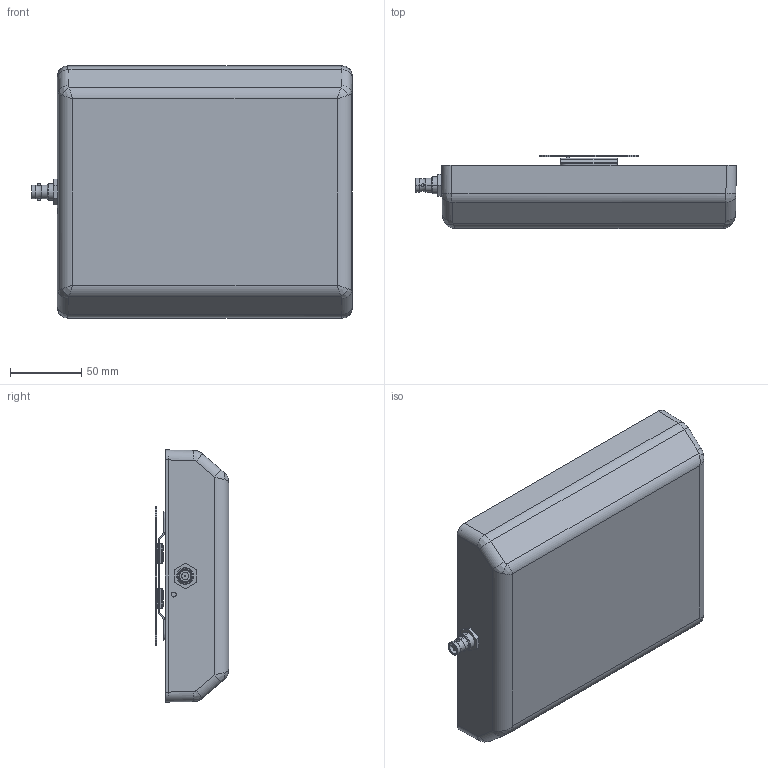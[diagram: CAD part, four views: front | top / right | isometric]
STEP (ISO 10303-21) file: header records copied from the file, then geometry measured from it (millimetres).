
FILE_DESCRIPTION((''),'2;1');
FILE_NAME('0001','2025-01-07T10:59:45',('YY2024'),(''),'CREO PARAMETRIC BY PTC INC, 2023073','CREO PARAMETRIC BY PTC INC, 2023073','');
FILE_SCHEMA(('CONFIG_CONTROL_DESIGN','GEOMETRIC_VALIDATION_PROPERTIES_MIM'));
Length unit declared in the file: inch
Products named in the file (1): 0001
Bounding box: 225.15 x 51.5 x 177 mm (x, y, z)
Volume: 194358.9 mm3; surface area: 229309.9 mm2
Topology: 2 solids, 2 shells, 476 faces, 1187 edges, 770 vertices
Faces by surface type: cylinder 234, plane 186, cone 30, bspline 24, torus 2
Entity records: 19626 total; most frequent: CARTESIAN_POINT 4619, DIRECTION 2433, ORIENTED_EDGE 2374, EDGE_CURVE 1187, AXIS2_PLACEMENT_3D 920, VERTEX_POINT 770, VECTOR 593, LINE 593
